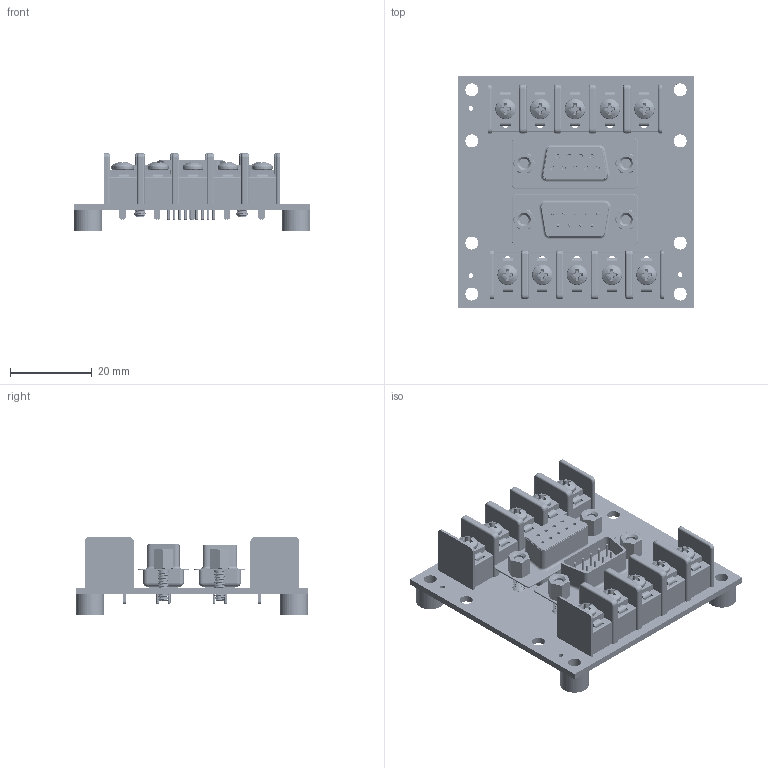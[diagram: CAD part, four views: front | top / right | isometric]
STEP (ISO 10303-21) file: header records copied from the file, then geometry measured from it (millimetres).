
FILE_DESCRIPTION(('FreeCAD Model'),'2;1');
FILE_NAME('Open CASCADE Shape Model','2025-02-08T18:41:12',(''),(''), 'Open CASCADE STEP processor 7.6','FreeCAD','Unknown');
FILE_SCHEMA(('AUTOMOTIVE_DESIGN { 1 0 10303 214 1 1 1 1 }'));
Length unit declared in the file: millimetre
Products named in the file (52): dsub9-terminal; Local_CS_6c73; Board_Geoms_6c73; Pcb_6c73; PCB_Sketch_6c73; botSilks_c2e; topSilks_1fa; Step_Models_6c73; Top_6c73; TB2_User Library-KF8500-3P_null; K8500 1S; K8500 Midlle Block; K8500 Wall; K8500 Wall001; K8500 Pad; K8500 Washer; M3x6mm_92005A066; K8500 1S001; K8500 Midlle Block001; K8500 Wall002; K8500 Wall003; K8500 Pad001; K8500 Washer001; M3x6mm_92005A067; K8500 1S002; K8500 Midlle Block002; K8500 Wall004; K8500 Wall005; K8500 Pad002; K8500 Washer002; M3x6mm_92005A068; F_DSUB-9_Female_Vertical_P2.77x2.84mm_MountingHoles_null; F_74m9499_5205818-2_null[2]; TB1_User_Library-KF8500-3P_null; K8500_1S001; K8500_Midlle_Block002; K8500_Wall005; K8500_Wall006; K8500_Pad002; K8500_Washer002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
Assembly tree (59 placements, depth 6):
  dsub9-terminal
    Local_CS_6c73
    Board_Geoms_6c73
      Pcb_6c73
      PCB_Sketch_6c73
      botSilks_c2e
      topSilks_1fa
    Step_Models_6c73
      Top_6c73
        TB2_User Library-KF8500-3P_null  x2
          K8500 1S
            K8500 Midlle Block
            K8500 Wall
            K8500 Wall001
            K8500 Pad
            K8500 Washer
            M3x6mm_92005A066
          K8500 1S001
            K8500 Midlle Block001
            K8500 Wall002
            K8500 Wall003
            K8500 Pad001
            K8500 Washer001
            M3x6mm_92005A067
          K8500 1S002
            K8500 Midlle Block002
            K8500 Wall004
            K8500 Wall005
            K8500 Pad002
            K8500 Washer002
            M3x6mm_92005A068
        F_DSUB-9_Female_Vertical_P2.77x2.84mm_MountingHoles_null
        F_74m9499_5205818-2_null[2]  x4
        TB1_User_Library-KF8500-3P_null  x2
          K8500_1S001
            K8500_Midlle_Block002
            K8500_Wall005
            K8500_Wall006
            K8500_Pad002
            K8500_Washer002
            M3x6mm_92005A069
          K8500_1S002
            K8500_Midlle_Block003
            K8500_Wall007
            K8500_Wall008
            K8500_Pad003
            K8500_Washer003
            M3x6mm_92005A070
        M_DSUB-9_Male_Vertical_P2.77x2.84mm_MountingHoles_null
    Step_Virtual_Models_6c73
      BotV_6c73
        ${REFERENCE}_Body_null  x4
Bounding box: 58 x 57 x 18.96 mm (x, y, z)
Volume: 16740.6 mm3; surface area: 28201 mm2
Topology: 71 solids, 155 shells, 2448 faces, 13525 edges, 11365 vertices
Faces by surface type: cylinder 1068, plane 956, cone 181, bspline 168, torus 59, revolution 8, sphere 8
Full cylindrical faces by diameter (mm): 0.64 x36, 0.853 x9, 1 x18, 1.152 x3, 1.7 x10, 3.2 x20, 7 x4
Entity records: 114074 total; most frequent: CARTESIAN_POINT 34882, ORIENTED_EDGE 13955, DIRECTION 13400, EDGE_CURVE 10644, VERTEX_POINT 9473, LINE 8946, VECTOR 8946, AXIS2_PLACEMENT_3D 2223
